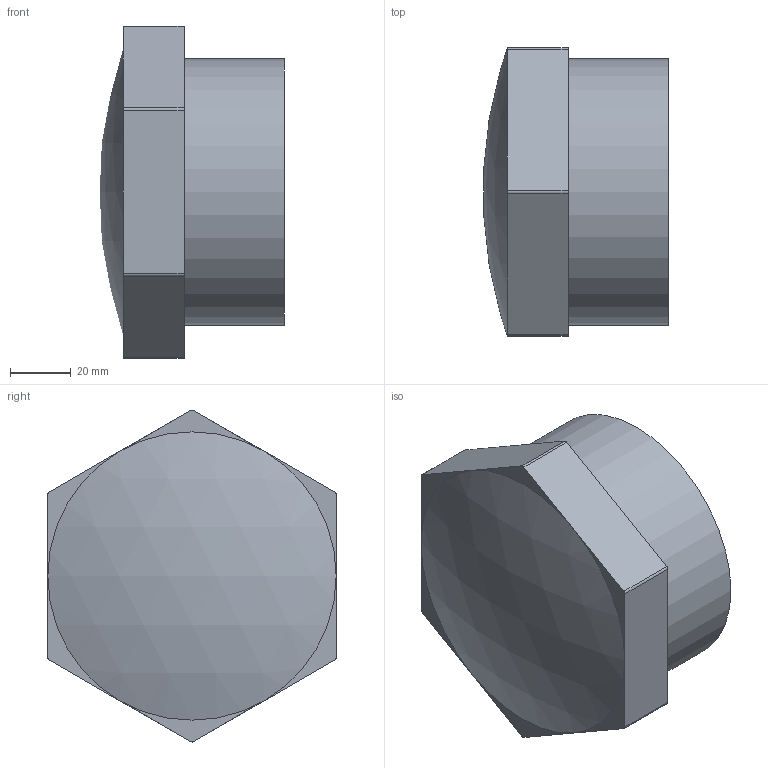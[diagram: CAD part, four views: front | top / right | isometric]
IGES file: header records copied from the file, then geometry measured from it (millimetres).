
Global section: file name: 051701030.ipt; native system: Autodesk Inventor 2015; preprocessor: unknown; author: KIM; date: 20171207.165345; units: millimetre
Bounding box: 60.78 x 95 x 109.4 mm (x, y, z)
Volume: 209992.3 mm3; surface area: 41016.3 mm2
Topology: 1 solids, 1 shells, 24 faces, 56 edges, 36 vertices
Faces by surface type: plane 14, cylinder 7, revolution 2, sphere 1
Full cylindrical faces by diameter (mm): 87.884 x1
